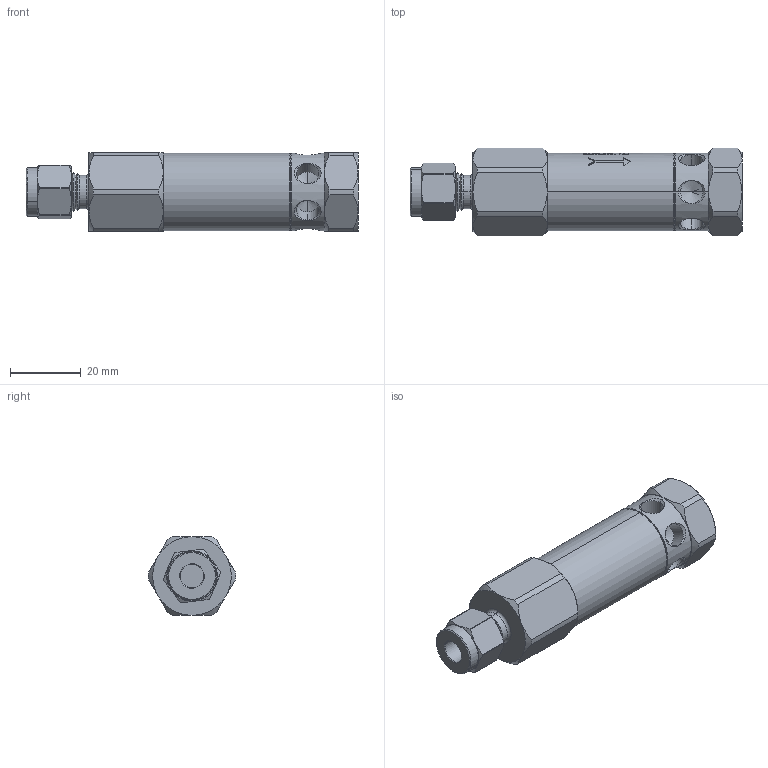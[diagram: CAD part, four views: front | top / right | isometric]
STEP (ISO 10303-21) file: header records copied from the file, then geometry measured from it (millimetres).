
FILE_DESCRIPTION (( 'STEP AP203' ), '1' );
FILE_NAME ('IRVD-4T.STEP', '2020-08-13T13:08:46', ( '' ), ( '' ), 'SwSTEP 2.0', 'SolidWorks 2020', '' );
FILE_SCHEMA (( 'CONFIG_CONTROL_DESIGN' ));
Length unit declared in the file: inch
Products named in the file (2): Part1^IRVD-4T; IRVD-4T
Assembly tree (1 placements, depth 2):
  IRVD-4T
    Part1^IRVD-4T
Bounding box: 93.73 x 24.76 x 22.23 mm (x, y, z)
Volume: 31182.5 mm3; surface area: 8040.1 mm2
Topology: 1 solids, 1 shells, 374 faces, 956 edges, 606 vertices
Faces by surface type: plane 157, cone 76, bspline 70, cylinder 69, torus 2
Entity records: 16515 total; most frequent: CARTESIAN_POINT 7945, ORIENTED_EDGE 1888, DIRECTION 1502, EDGE_CURVE 944, VERTEX_POINT 606, AXIS2_PLACEMENT_3D 572, EDGE_LOOP 408, ADVANCED_FACE 374
